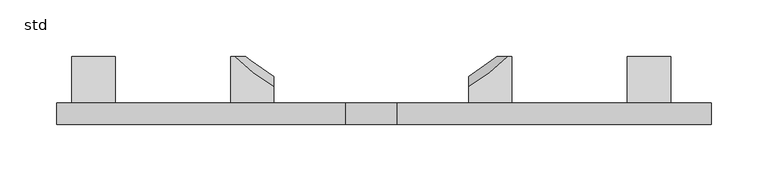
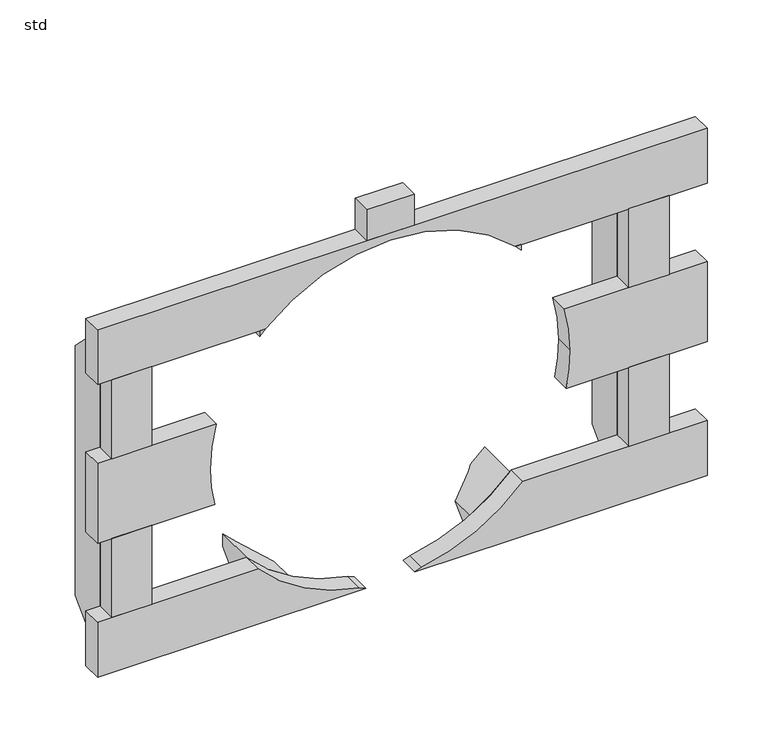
"""IFC4 building model written with IfcOpenShell, lengths in millimetres: unitary equipment geometry, Z_ME_UN_Aquacell_NG_Lateral_Side_Plate_Wavin_(nested) : std."""

import ifcopenshell
import ifcopenshell.guid

model = None  # the IFC model being written
_history = None  # IfcOwnerHistory: only IFC2X3 demands one
_inside = {}  # id of a spatial element -> (the spatial element, [elements in it])
_under = {}  # id of a project, library or spatial element -> (it, [spatial elements below it])
_declared = {}  # id of a project -> (the project, [libraries it declares])
_typed = {}  # id of a type object -> (the type object, [elements of that type])
_made_of = {}  # id of a material, layer set ... -> (it, [elements and type objects made of it])


def new_model(schema):
    """Start an empty IFC model of exactly this schema.

    Asked for "IFC4X3", IfcOpenShell would pick the latest addendum, in which some entities
    have other attributes; the version numbers below select the first issue.
    IFC2X3 requires an IfcOwnerHistory on every rooted entity: one is made here for all.
    """
    global model, _history
    if schema == "IFC4X3":
        model = ifcopenshell.file(schema_version=(4, 3, 0, 0))
    else:
        model = ifcopenshell.file(schema=schema)
    _inside.clear()
    _under.clear()
    _declared.clear()
    _typed.clear()
    _made_of.clear()
    _history = None
    if model.schema == "IFC2X3":
        org = make("IfcOrganization", Name="unknown")
        user = make(
            "IfcPersonAndOrganization",
            ThePerson=make("IfcPerson", FamilyName="unknown"),
            TheOrganization=org,
        )
        app = make(
            "IfcApplication",
            ApplicationDeveloper=org,
            Version="unknown",
            ApplicationFullName="unknown",
            ApplicationIdentifier="unknown",
        )
        _history = make(
            "IfcOwnerHistory",
            OwningUser=user,
            OwningApplication=app,
            ChangeAction="ADDED",
            CreationDate=0,
        )
    return model


def make(cls, **values):
    """One entity of the class cls with the attributes given. An attribute that is None is left unset."""
    return model.create_entity(
        cls, **{name: value for name, value in values.items() if value is not None}
    )


def rooted(cls, **values):
    """An entity with a GlobalId (a new one), such as an element, a storey or a relation."""
    return make(cls, GlobalId=ifcopenshell.guid.new(), OwnerHistory=_history, **values)


def si_unit(unit_type, name, prefix=None):
    """IfcSIUnit, for example si_unit("LENGTHUNIT", "METRE", prefix="MILLI")."""
    return make("IfcSIUnit", UnitType=unit_type, Prefix=prefix, Name=name)


def assignment(units):
    """IfcUnitAssignment: the units of a project."""
    return None if units is None else make("IfcUnitAssignment", Units=units)


def point(xyz):
    """IfcCartesianPoint."""
    return None if xyz is None else make("IfcCartesianPoint", Coordinates=xyz)


def direction(xyz):
    """IfcDirection."""
    return None if xyz is None else make("IfcDirection", DirectionRatios=xyz)


def frame(location, z_axis=None, x_axis=None):
    """IfcAxis2Placement3D, a coordinate frame: its origin and axes. An axis left out is left unset."""
    return make(
        "IfcAxis2Placement3D",
        Location=point(location),
        Axis=direction(z_axis),
        RefDirection=direction(x_axis),
    )


def frame_2d(location, x_axis=None):
    """IfcAxis2Placement2D, a coordinate frame in the plane: its origin and x axis."""
    return make(
        "IfcAxis2Placement2D", Location=point(location), RefDirection=direction(x_axis)
    )


def origin():
    """The frame at (0, 0, 0) with its axes left unset."""
    return frame((0.0, 0.0, 0.0))


def place(relative_to, where):
    """IfcLocalPlacement: puts the frame where relative to a parent placement (None: the world)."""
    return make(
        "IfcLocalPlacement", PlacementRelTo=relative_to, RelativePlacement=where
    )


def context(
    kind, dimensions, precision=None, world=None, true_north=None, identifier=None
):
    """IfcGeometricRepresentationContext, for example the 3D "Model" context."""
    return make(
        "IfcGeometricRepresentationContext",
        ContextIdentifier=identifier,
        ContextType=kind,
        CoordinateSpaceDimension=dimensions,
        Precision=precision,
        WorldCoordinateSystem=world,
        TrueNorth=true_north,
    )


def project(units=None, contexts=None):
    """IfcProject with its units and contexts."""
    return rooted(
        "IfcProject",
        Name="project",
        RepresentationContexts=contexts,
        UnitsInContext=assignment(units),
    )


def spatial(cls, under=None, at=None, **own):
    """A site, building, storey or space (cls), placed at a placement, below another one or the project."""
    s = rooted(cls, ObjectPlacement=at, **own)
    if under is not None:
        _under.setdefault(under.id(), (under, []))[1].append(s)
    return s


def polyline(points):
    """IfcPolyline through the points."""
    return make("IfcPolyline", Points=[point(p) for p in points])


def circle_curve(where, radius):
    """IfcCircle in the frame where."""
    return make("IfcCircle", Position=where, Radius=radius)


def ellipse_curve(where, semi_axis1, semi_axis2):
    """IfcEllipse in the frame where."""
    return make(
        "IfcEllipse", Position=where, SemiAxis1=semi_axis1, SemiAxis2=semi_axis2
    )


def trimmed(basis, trim1, trim2, sense, master):
    """IfcTrimmedCurve: the piece of a basis curve between two trims."""
    return make(
        "IfcTrimmedCurve",
        BasisCurve=basis,
        Trim1=trim1,
        Trim2=trim2,
        SenseAgreement=sense,
        MasterRepresentation=master,
    )


def segment(curve, same_sense, transition):
    """IfcCompositeCurveSegment."""
    return make(
        "IfcCompositeCurveSegment",
        Transition=transition,
        SameSense=same_sense,
        ParentCurve=curve,
    )


def composite_curve(segments, self_intersect=None):
    """IfcCompositeCurve: segments joined end to end."""
    return make("IfcCompositeCurve", Segments=segments, SelfIntersect=self_intersect)


def outline(outer, holes=None, kind="AREA"):
    """IfcArbitraryClosedProfileDef: a profile drawn as a closed curve; with holes, ...WithVoids."""
    if holes is None:
        return make("IfcArbitraryClosedProfileDef", ProfileType=kind, OuterCurve=outer)
    return make(
        "IfcArbitraryProfileDefWithVoids",
        ProfileType=kind,
        OuterCurve=outer,
        InnerCurves=holes,
    )


def extrude(swept, where, along, depth):
    """IfcExtrudedAreaSolid: the profile swept, set in the frame where, extruded along a direction by depth."""
    return make(
        "IfcExtrudedAreaSolid",
        SweptArea=swept,
        Position=where,
        ExtrudedDirection=direction(along),
        Depth=depth,
    )


def shape(context_of_items, identifier, shape_type, items):
    """IfcShapeRepresentation: the items that make up one representation, for example the "Body"."""
    return make(
        "IfcShapeRepresentation",
        ContextOfItems=context_of_items,
        RepresentationIdentifier=identifier,
        RepresentationType=shape_type,
        Items=items,
    )


def source(mapping_origin, context_of_items, identifier, shape_type, items):
    """IfcRepresentationMap: a shape defined once, which mapped items show again and again."""
    return make(
        "IfcRepresentationMap",
        MappingOrigin=mapping_origin,
        MappedRepresentation=shape(context_of_items, identifier, shape_type, items),
    )


def transform(
    local_origin,
    x_axis=None,
    y_axis=None,
    z_axis=None,
    scale=None,
    scale2=None,
    scale3=None,
    uniform=True,
):
    """IfcCartesianTransformationOperator3D, or its non-uniform kind. x_axis, y_axis, z_axis: its Axis1, 2, 3."""
    if uniform:
        return make(
            "IfcCartesianTransformationOperator3D",
            Axis1=direction(x_axis),
            Axis2=direction(y_axis),
            LocalOrigin=point(local_origin),
            Scale=scale,
            Axis3=direction(z_axis),
        )
    return make(
        "IfcCartesianTransformationOperator3DnonUniform",
        Axis1=direction(x_axis),
        Axis2=direction(y_axis),
        LocalOrigin=point(local_origin),
        Scale=scale,
        Axis3=direction(z_axis),
        Scale2=scale2,
        Scale3=scale3,
    )


def mapped(mapping_source, mapping_target):
    """IfcMappedItem: shows the shape of a source again, moved by a transform."""
    return make(
        "IfcMappedItem", MappingSource=mapping_source, MappingTarget=mapping_target
    )


def made_of(thing, what):
    """Note that an element or type object is made of a material, layer set ...; save() writes the relation."""
    if what is not None:
        _made_of.setdefault(what.id(), (what, []))[1].append(thing)
    return thing


def element(
    cls,
    number,
    at=None,
    inside=None,
    cuts=None,
    type_object=None,
    material=None,
    context=None,
    identifier="Body",
    shape_type=None,
    held_by="IfcProductDefinitionShape",
    body=None,
    shapes=None,
    **own,
):
    """One element of the class cls, such as IfcWall. Its Tag is "e" and its number.

    at: its placement. inside: the storey or other place that contains it. cuts: it is an
    opening in that element (IfcRelVoidsElement). A single representation is given by context,
    identifier, shape_type and body (its items); several are given by shapes. held_by: the class
    of the entity that holds the representations. save() writes the other relations.
    """
    e = rooted(cls, Tag="e%d" % number, ObjectPlacement=at, **own)
    if body is not None:
        shapes = [shape(context, identifier, shape_type, body)]
    if shapes is not None:
        e.Representation = make(held_by, Representations=shapes)
    if inside is not None:
        _inside.setdefault(inside.id(), (inside, []))[1].append(e)
    if cuts is not None:
        rooted(
            "IfcRelVoidsElement", RelatingBuildingElement=cuts, RelatedOpeningElement=e
        )
    if type_object is not None:
        _typed.setdefault(type_object.id(), (type_object, []))[1].append(e)
    return made_of(e, material)


def aggregate(whole, parts):
    """IfcRelAggregates: a whole, such as a stair, and the parts it consists of."""
    return rooted("IfcRelAggregates", RelatingObject=whole, RelatedObjects=parts)


def save(model, path):
    """Write the relations noted so far, then the file.

    IfcRelAggregates (storeys below a building ...), IfcRelContainedInSpatialStructure (elements
    in a storey), IfcRelDefinesByType, IfcRelAssociatesMaterial and IfcRelDeclares: one each for
    every whole, place, type object, material and project.
    """
    for whole, parts in _under.values():
        aggregate(whole, parts)
    for where, things in _inside.values():
        rooted(
            "IfcRelContainedInSpatialStructure",
            RelatedElements=things,
            RelatingStructure=where,
        )
    for kind, things in _typed.values():
        rooted("IfcRelDefinesByType", RelatedObjects=things, RelatingType=kind)
    for what, things in _made_of.values():
        rooted("IfcRelAssociatesMaterial", RelatedObjects=things, RelatingMaterial=what)
    for by, libraries in _declared.values():
        rooted("IfcRelDeclares", RelatingContext=by, RelatedDefinitions=libraries)
    model.write(path)


def plane_surface(at):
    """IfcPlane: the flat surface through the origin of the frame at, square to its z axis."""
    return make("IfcPlane", Position=at)


def revolved_surface(curve, axis_point, axis_direction):
    """IfcSurfaceOfRevolution: the curve turned about the line through axis_point along axis_direction."""
    return make(
        "IfcSurfaceOfRevolution",
        SweptCurve=make("IfcArbitraryOpenProfileDef", ProfileType="CURVE", Curve=curve),
        AxisPosition=make("IfcAxis1Placement", Location=point(axis_point), Axis=direction(axis_direction)),
    )


def advanced_brep(points, edges, surfaces, faces):
    """IfcAdvancedBrep: a solid bounded by faces that lie on surfaces and meet in shared edges.

    An edge is (start, end): straight between two places in points (the first is 0);
    or (start, end, curve); or (start, end, curve, False) where it runs against its curve.
    A face is (place in surfaces, loops), or (place, loops, False) where it looks against
    its surface's normal. A loop lists edges by number (the first is 1), with a minus sign
    where the edge is run from its end to its start. The first loop is the outer one.
    """
    corners = [point(p) for p in points]
    vertices = [make("IfcVertexPoint", VertexGeometry=c) for c in corners]
    made = []
    for start, end, *more in edges:
        made.append(
            make(
                "IfcEdgeCurve",
                EdgeStart=vertices[start],
                EdgeEnd=vertices[end],
                EdgeGeometry=more[0] if more else make("IfcPolyline", Points=[corners[start], corners[end]]),
                SameSense=more[1] if len(more) > 1 else True,
            )
        )
    hull = []
    for where, loops, *sense in faces:
        bounds = []
        for j, loop in enumerate(loops):
            ring = [make("IfcOrientedEdge", EdgeElement=made[abs(k) - 1], Orientation=k > 0) for k in loop]
            bounds.append(
                make(
                    "IfcFaceOuterBound" if j == 0 else "IfcFaceBound",
                    Bound=make("IfcEdgeLoop", EdgeList=ring),
                    Orientation=True,
                )
            )
        hull.append(make("IfcAdvancedFace", Bounds=bounds, FaceSurface=surfaces[where], SameSense=sense[0] if sense else True))
    return make("IfcAdvancedBrep", Outer=make("IfcClosedShell", CfsFaces=hull))


def std_b2eda6de(model_context):
    return source(origin(), model_context, "Body", "SolidModel", [
        extrude(outline(composite_curve([segment(polyline([(328.0, 181.4082634), (328.0, 176.0), (322.5224337, 176.0)]), True, "CONTINUOUS"), segment(trimmed(circle_curve(frame_2d((205.5, 300.0)), 170.5), [point((322.5224337, 176.0))], [point((328.0, 181.4082634))], True, "CARTESIAN"), True, "CONTINUOUS")], self_intersect=False)), frame((0.0, 0.0, 0.0), z_axis=(0.0, 1.0, 0.0), x_axis=(0.0, 0.0, 1.0)), (0.0, 0.0, 1.0), 19.0),
        extrude(outline(composite_curve([segment(polyline([(328.0, 424.0), (328.0, 418.5917366)]), True, "CONTINUOUS"), segment(trimmed(circle_curve(frame_2d((205.5, 300.0)), 170.5), [point((328.0, 418.5917366))], [point((322.5224337, 424.0))], True, "CARTESIAN"), True, "CONTINUOUS"), segment(polyline([(322.5224337, 424.0), (328.0, 424.0)]), True, "CONTINUOUS")], self_intersect=False)), frame((0.0, 0.0, 0.0), z_axis=(0.0, 1.0, 0.0), x_axis=(0.0, 0.0, 1.0)), (0.0, 0.0, 1.0), 19.0),
        extrude(outline(polyline([(19.0, 35.0), (19.0, 367.0), (60.0, 326.0), (60.0, 76.0), (19.0, 35.0)])), frame((526.0, 0.0, 0.0), z_axis=(1.0, 0.0, 0.0), x_axis=(0.0, 1.0, 0.0)), (0.0, 0.0, 1.0), 38.0),
        advanced_brep(
        [(424.0, 60.0, 76.0), (410.9053651, 60.0, 76.0), (424.0, 60.0, 88.4775663), (386.0, 19.0, 35.0), (424.0, 19.0, 35.0), (424.0, 19.0, 88.4775663), (386.0, 19.0, 58.2782285), (386.0, 42.2782285, 58.2782285)],
        [
            (0, 1),
            (1, 2, circle_curve(frame((300.0, 60.0, 205.5), z_axis=(0.0, -1.0, 0.0), x_axis=(1.0, 0.0, 0.0)), 170.5)),
            (2, 0),
            (3, 4),
            (4, 5),
            (5, 6, circle_curve(frame((300.0, 19.0, 205.5), z_axis=(0.0, 1.0, 0.0), x_axis=(1.0, 0.0, 0.0)), 170.5)),
            (6, 3),
            (4, 0),
            (2, 5),
            (6, 7),
            (7, 3),
            (7, 1, ellipse_curve(frame((300.0, 189.5, 205.5), z_axis=(0.0, -0.7071067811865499, 0.7071067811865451), x_axis=(0.0, -0.7071067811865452, -0.7071067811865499)), 241.1234124, 170.5)),
        ],
        [
            plane_surface(frame((386.0, 60.0, 35.0), z_axis=(0.0, 1.0, 0.0), x_axis=(-1.0, 0.0, 0.0))),
            plane_surface(frame((386.0, 19.0, 35.0), z_axis=(0.0, -1.0, 0.0), x_axis=(1.0, 0.0, 0.0))),
            plane_surface(frame((424.0, 19.0, 35.0), z_axis=(1.0, 0.0, 0.0), x_axis=(0.0, 1.0, 0.0))),
            plane_surface(frame((386.0, 19.0, 367.0), z_axis=(-1.0, 0.0, 0.0), x_axis=(0.0, 1.0, 0.0))),
            plane_surface(frame((1177.5, 60.0, 76.0), z_axis=(0.0, 0.7071067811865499, -0.7071067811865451), x_axis=(-1.0, 0.0, 0.0))),
            revolved_surface(polyline([(470.5, 18.999999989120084, 205.5), (470.5, 360.00000001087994, 205.5)]), (300.0, 60.0, 205.5), (0.0, -1.0, 0.0)),
        ],
        [
            (0, [[1, 2, 3]]),
            (1, [[4, 5, 6, 7]]),
            (2, [[8, -3, 9, -5]]),
            (3, [[-7, 10, 11]]),
            (4, [[-4, -11, 12, -1, -8]]),
            (5, [[-2, -12, -10, -6, -9]]),
        ],
    ),
        advanced_brep(
        [(420.6233808, 60.0, 326.0), (424.0, 60.0, 326.0), (424.0, 60.0, 322.5224337), (424.0, 19.0, 367.0), (386.0, 19.0, 367.0), (386.0, 19.0, 352.7217715), (424.0, 19.0, 322.5224337), (386.0, 33.2782285, 352.7217715)],
        [
            (0, 1),
            (1, 2),
            (2, 0, circle_curve(frame((300.0, 60.0, 205.5), z_axis=(0.0, -1.0, 0.0), x_axis=(1.0, 0.0, 0.0)), 170.5)),
            (3, 4),
            (4, 5),
            (5, 6, circle_curve(frame((300.0, 19.0, 205.5), z_axis=(0.0, 1.0, 0.0), x_axis=(1.0, 0.0, 0.0)), 170.5)),
            (6, 3),
            (1, 3),
            (6, 2),
            (4, 7),
            (7, 5),
            (0, 7, ellipse_curve(frame((300.0, 180.5, 205.5), z_axis=(0.0, -0.7071067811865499, -0.7071067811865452), x_axis=(0.0, -0.7071067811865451, 0.7071067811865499)), 241.1234124, 170.5)),
        ],
        [
            plane_surface(frame((386.0, 60.0, 35.0), z_axis=(0.0, 1.0, 0.0), x_axis=(-1.0, 0.0, 0.0))),
            plane_surface(frame((386.0, 19.0, 35.0), z_axis=(0.0, -1.0, 0.0), x_axis=(1.0, 0.0, 0.0))),
            plane_surface(frame((424.0, 19.0, 35.0), z_axis=(1.0, 0.0, 0.0), x_axis=(0.0, 1.0, 0.0))),
            plane_surface(frame((386.0, 19.0, 367.0), z_axis=(-1.0, 0.0, 0.0), x_axis=(0.0, 1.0, 0.0))),
            plane_surface(frame((1177.5, 19.0, 367.0), z_axis=(0.0, 0.7071067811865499, 0.7071067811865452), x_axis=(-1.0, 0.0, 0.0))),
            revolved_surface(polyline([(470.5, 9.999999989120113, 205.5), (470.5, 351.0000000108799, 205.5)]), (300.0, 60.0, 205.5), (0.0, -1.0, 0.0)),
        ],
        [
            (0, [[1, 2, 3]]),
            (1, [[4, 5, 6, 7]]),
            (2, [[8, -7, 9, -2]]),
            (3, [[-5, 10, 11]]),
            (4, [[-4, -8, -1, 12, -10]]),
            (5, [[-3, -9, -6, -11, -12]]),
        ],
    ),
        advanced_brep(
        [(189.0946349, 60.0, 76.0), (176.0, 60.0, 76.0), (176.0, 60.0, 88.4775663), (176.0, 19.0, 35.0), (214.0, 19.0, 35.0), (214.0, 19.0, 58.2782285), (176.0, 19.0, 88.4775663), (214.0, 42.2782285, 58.2782285)],
        [
            (0, 1),
            (1, 2),
            (2, 0, circle_curve(frame((300.0, 60.0, 205.5), z_axis=(0.0, -1.0, 0.0), x_axis=(1.0, 0.0, 0.0)), 170.5)),
            (3, 4),
            (4, 5),
            (5, 6, circle_curve(frame((300.0, 19.0, 205.5), z_axis=(0.0, 1.0, 0.0), x_axis=(1.0, 0.0, 0.0)), 170.5)),
            (6, 3),
            (4, 7),
            (7, 5),
            (1, 3),
            (6, 2),
            (0, 7, ellipse_curve(frame((300.0, 189.5, 205.5), z_axis=(0.0, -0.7071067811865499, 0.7071067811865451), x_axis=(0.0, -0.7071067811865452, -0.7071067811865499)), 241.1234124, 170.5)),
        ],
        [
            plane_surface(frame((176.0, 60.0, 35.0), z_axis=(0.0, 1.0, 0.0), x_axis=(-1.0, 0.0, 0.0))),
            plane_surface(frame((176.0, 19.0, 35.0), z_axis=(0.0, -1.0, 0.0), x_axis=(1.0, 0.0, 0.0))),
            plane_surface(frame((214.0, 19.0, 35.0), z_axis=(1.0, 0.0, 0.0), x_axis=(0.0, 1.0, 0.0))),
            plane_surface(frame((176.0, 19.0, 367.0), z_axis=(-1.0, 0.0, 0.0), x_axis=(0.0, 1.0, 0.0))),
            plane_surface(frame((1177.5, 60.0, 76.0), z_axis=(0.0, 0.7071067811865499, -0.7071067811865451), x_axis=(-1.0, 0.0, 0.0))),
            revolved_surface(polyline([(470.5, 18.999999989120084, 205.5), (470.5, 360.00000001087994, 205.5)]), (300.0, 60.0, 205.5), (0.0, -1.0, 0.0)),
        ],
        [
            (0, [[1, 2, 3]]),
            (1, [[4, 5, 6, 7]]),
            (2, [[-5, 8, 9]]),
            (3, [[10, -7, 11, -2]]),
            (4, [[-4, -10, -1, 12, -8]]),
            (5, [[-3, -11, -6, -9, -12]]),
        ],
    ),
        advanced_brep(
        [(176.0, 60.0, 322.5224337), (176.0, 60.0, 326.0), (179.3766192, 60.0, 326.0), (214.0, 19.0, 367.0), (176.0, 19.0, 367.0), (176.0, 19.0, 322.5224337), (214.0, 19.0, 352.7217715), (214.0, 33.2782285, 352.7217715)],
        [
            (0, 1),
            (1, 2),
            (2, 0, circle_curve(frame((300.0, 60.0, 205.5), z_axis=(0.0, -1.0, 0.0), x_axis=(1.0, 0.0, 0.0)), 170.5)),
            (3, 4),
            (4, 5),
            (5, 6, circle_curve(frame((300.0, 19.0, 205.5), z_axis=(0.0, 1.0, 0.0), x_axis=(1.0, 0.0, 0.0)), 170.5)),
            (6, 3),
            (6, 7),
            (7, 3),
            (4, 1),
            (0, 5),
            (7, 2, ellipse_curve(frame((300.0, 180.5, 205.5), z_axis=(0.0, -0.7071067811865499, -0.7071067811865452), x_axis=(0.0, -0.7071067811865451, 0.7071067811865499)), 241.1234124, 170.5)),
        ],
        [
            plane_surface(frame((176.0, 60.0, 35.0), z_axis=(0.0, 1.0, 0.0), x_axis=(-1.0, 0.0, 0.0))),
            plane_surface(frame((176.0, 19.0, 35.0), z_axis=(0.0, -1.0, 0.0), x_axis=(1.0, 0.0, 0.0))),
            plane_surface(frame((214.0, 19.0, 35.0), z_axis=(1.0, 0.0, 0.0), x_axis=(0.0, 1.0, 0.0))),
            plane_surface(frame((176.0, 19.0, 367.0), z_axis=(-1.0, 0.0, 0.0), x_axis=(0.0, 1.0, 0.0))),
            plane_surface(frame((1177.5, 19.0, 367.0), z_axis=(0.0, 0.7071067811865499, 0.7071067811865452), x_axis=(-1.0, 0.0, 0.0))),
            revolved_surface(polyline([(470.5, 9.999999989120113, 205.5), (470.5, 351.0000000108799, 205.5)]), (300.0, 60.0, 205.5), (0.0, -1.0, 0.0)),
        ],
        [
            (0, [[1, 2, 3]]),
            (1, [[4, 5, 6, 7]]),
            (2, [[-7, 8, 9]]),
            (3, [[10, -1, 11, -5]]),
            (4, [[-4, -9, 12, -2, -10]]),
            (5, [[-3, -12, -8, -6, -11]]),
        ],
    ),
        extrude(outline(polyline([(19.0, 35.0), (19.0, 367.0), (60.0, 326.0), (60.0, 76.0), (19.0, 35.0)])), frame((36.0, 0.0, 0.0), z_axis=(1.0, 0.0, 0.0), x_axis=(0.0, 1.0, 0.0)), (0.0, 0.0, 1.0), 38.0),
        extrude(outline(polyline([(564.0, 0.0), (526.0, 0.0), (526.0, 19.0), (564.0, 19.0), (564.0, 0.0)])), frame((0.0, 0.0, 90.0), z_axis=(0.0, 0.0, 1.0), x_axis=(1.0, 0.0, 0.0)), (0.0, 0.0, 1.0), 79.0),
        extrude(outline(polyline([(564.0, 0.0), (526.0, 0.0), (526.0, 19.0), (564.0, 19.0), (564.0, 0.0)])), frame((0.0, 0.0, 249.0), z_axis=(0.0, 0.0, 1.0), x_axis=(1.0, 0.0, 0.0)), (0.0, 0.0, 1.0), 79.0),
        extrude(outline(polyline([(74.0, 0.0), (36.0, 0.0), (36.0, 19.0), (74.0, 19.0), (74.0, 0.0)])), frame((0.0, 0.0, 90.0), z_axis=(0.0, 0.0, 1.0), x_axis=(1.0, 0.0, 0.0)), (0.0, 0.0, 1.0), 79.0),
        extrude(outline(polyline([(74.0, 0.0), (36.0, 0.0), (36.0, 19.0), (74.0, 19.0), (74.0, 0.0)])), frame((0.0, 0.0, 249.0), z_axis=(0.0, 0.0, 1.0), x_axis=(1.0, 0.0, 0.0)), (0.0, 0.0, 1.0), 79.0),
        extrude(outline(polyline([(322.5, 19.0), (322.5, 0.0), (277.5, 0.0), (277.5, 19.0), (322.5, 19.0)])), frame((0.0, 0.0, 383.0), z_axis=(0.0, 0.0, 1.0), x_axis=(1.0, 0.0, 0.0)), (0.0, 0.0, 1.0), 31.0),
        extrude(outline(composite_curve([segment(polyline([(383.0, 600.0), (383.0, 22.5), (328.0, 22.5), (328.0, 181.4082634)]), True, "CONTINUOUS"), segment(trimmed(circle_curve(frame_2d((205.5, 300.0)), 170.5), [point((328.0, 181.4082634))], [point((328.0, 418.5917366))], True, "CARTESIAN"), True, "CONTINUOUS"), segment(polyline([(328.0, 418.5917366), (328.0, 600.0), (383.0, 600.0)]), True, "CONTINUOUS")], self_intersect=False)), frame((0.0, 0.0, 0.0), z_axis=(0.0, 1.0, 0.0), x_axis=(0.0, 0.0, 1.0)), (0.0, 0.0, 1.0), 19.0),
        extrude(outline(composite_curve([segment(polyline([(35.0, 600.0), (90.0, 600.0), (90.0, 425.4192968)]), True, "CONTINUOUS"), segment(trimmed(circle_curve(frame_2d((205.5, 300.0)), 170.5), [point((90.0, 425.4192968))], [point((37.5402844, 329.3220723))], True, "CARTESIAN"), True, "CONTINUOUS"), segment(trimmed(circle_curve(frame_2d((100.0, 300.0)), 69.0), [point((37.5402844, 329.3220723))], [point((35.0, 323.1516738))], True, "CARTESIAN"), True, "CONTINUOUS"), segment(polyline([(35.0, 323.1516738), (35.0, 600.0)]), True, "CONTINUOUS")], self_intersect=False)), frame((0.0, 0.0, 0.0), z_axis=(0.0, 1.0, 0.0), x_axis=(0.0, 0.0, 1.0)), (0.0, 0.0, 1.0), 19.0),
        extrude(outline(composite_curve([segment(polyline([(90.0, 22.5), (35.0, 22.5), (35.0, 276.8483262)]), True, "CONTINUOUS"), segment(trimmed(circle_curve(frame_2d((100.0, 300.0)), 69.0), [point((35.0, 276.8483262))], [point((37.5402844, 270.6779277))], True, "CARTESIAN"), True, "CONTINUOUS"), segment(trimmed(circle_curve(frame_2d((205.5, 300.0)), 170.5), [point((37.5402844, 270.6779277))], [point((90.0, 174.5807032))], True, "CARTESIAN"), True, "CONTINUOUS"), segment(polyline([(90.0, 174.5807032), (90.0, 22.5)]), True, "CONTINUOUS")], self_intersect=False)), frame((0.0, 0.0, 0.0), z_axis=(0.0, 1.0, 0.0), x_axis=(0.0, 0.0, 1.0)), (0.0, 0.0, 1.0), 19.0),
        extrude(outline(composite_curve([segment(polyline([(169.0, 600.0), (249.0, 600.0), (249.0, 464.8575142)]), True, "CONTINUOUS"), segment(trimmed(circle_curve(frame_2d((205.5, 300.0)), 170.5), [point((249.0, 464.8575142))], [point((205.5, 470.5))], True, "CARTESIAN"), True, "CONTINUOUS"), segment(trimmed(circle_curve(frame_2d((205.5, 300.0)), 170.5), [point((205.5, 470.5))], [point((169.0, 466.5472906))], True, "CARTESIAN"), True, "CONTINUOUS"), segment(polyline([(169.0, 466.5472906), (169.0, 600.0)]), True, "CONTINUOUS")], self_intersect=False)), frame((0.0, 0.0, 0.0), z_axis=(0.0, 1.0, 0.0), x_axis=(0.0, 0.0, 1.0)), (0.0, 0.0, 1.0), 19.0),
        extrude(outline(composite_curve([segment(polyline([(249.0, 22.5), (169.0, 22.5), (169.0, 133.4527094)]), True, "CONTINUOUS"), segment(trimmed(circle_curve(frame_2d((205.5, 300.0)), 170.5), [point((169.0, 133.4527094))], [point((205.5, 129.5))], True, "CARTESIAN"), True, "CONTINUOUS"), segment(trimmed(circle_curve(frame_2d((205.5, 300.0)), 170.5), [point((205.5, 129.5))], [point((249.0, 135.1424858))], True, "CARTESIAN"), True, "CONTINUOUS"), segment(polyline([(249.0, 135.1424858), (249.0, 22.5)]), True, "CONTINUOUS")], self_intersect=False)), frame((0.0, 0.0, 0.0), z_axis=(0.0, 1.0, 0.0), x_axis=(0.0, 0.0, 1.0)), (0.0, 0.0, 1.0), 19.0),
    ])


if __name__ == "__main__":
    model = new_model("IFC4")
    model_context = context("Model", 3, world=origin())
    ifc_project = project(units=[si_unit("LENGTHUNIT", "METRE", prefix="MILLI")], contexts=[model_context])
    site = spatial("IfcSite", under=ifc_project)
    building = spatial("IfcBuilding", under=site)
    placement = place(None, origin())
    std_shape = std_b2eda6de(model_context)
    element("IfcUnitaryEquipment", 1, ObjectType="Z_ME_UN_Aquacell_NG_Lateral_Side_Plate_Wavin_(nested) : std", at=placement, inside=building, context=model_context, shape_type="MappedRepresentation", body=[
        mapped(std_shape, transform((0.0, 0.0, 0.0), x_axis=(1.0, 0.0, 0.0), y_axis=(0.0, 1.0, 0.0), z_axis=(0.0, 0.0, 1.0))),
    ])
    save(model, "model.ifc")
